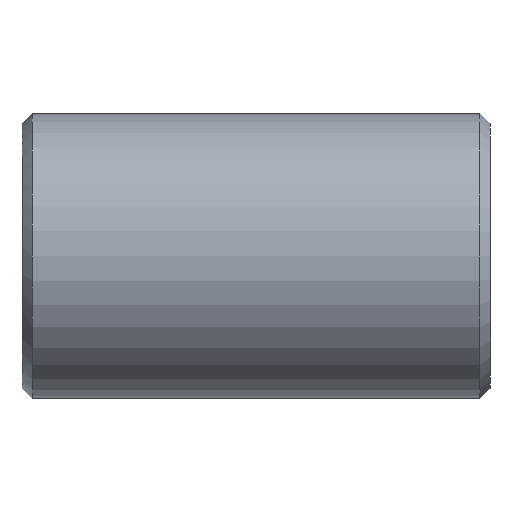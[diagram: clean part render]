
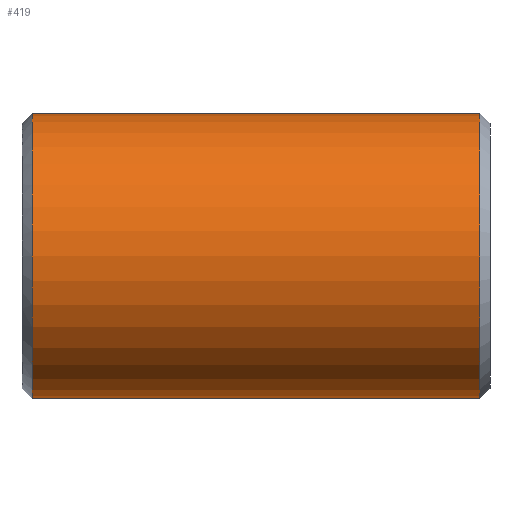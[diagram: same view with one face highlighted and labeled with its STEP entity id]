
A CAD part, front view. The second image highlights one B-rep face of the part: STEP entity #419.
In plain terms, the highlighted cylindrical face has radius 14 mm (diameter 28 mm), a partial arc.
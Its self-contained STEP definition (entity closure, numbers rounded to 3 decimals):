
#231=CARTESIAN_POINT('Vertex',(1.,0.,-14.)) ;
#238=CARTESIAN_POINT('Vertex',(1.,0.,14.)) ;
#267=CARTESIAN_POINT('Axis2P3D Location',(1.,0.,0.)) ;
#271=CARTESIAN_POINT('Vertex',(1.,-14.,0.)) ;
#274=CARTESIAN_POINT('Axis2P3D Location',(1.,0.,0.)) ;
#359=CARTESIAN_POINT('Line Origine',(46.,0.,14.)) ;
#363=CARTESIAN_POINT('Vertex',(45.,0.,14.)) ;
#377=CARTESIAN_POINT('Vertex',(45.,0.,-14.)) ;
#380=CARTESIAN_POINT('Line Origine',(46.,0.,-14.)) ;
#394=CARTESIAN_POINT('Axis2P3D Location',(46.,0.,0.)) ;
#399=CARTESIAN_POINT('Axis2P3D Location',(45.,0.,0.)) ;
#403=CARTESIAN_POINT('Vertex',(45.,-14.,0.)) ;
#406=CARTESIAN_POINT('Axis2P3D Location',(45.,0.,0.)) ;
#268=DIRECTION('Axis2P3D Direction',(1.,0.,-0.)) ;
#275=DIRECTION('Axis2P3D Direction',(1.,0.,-0.)) ;
#360=DIRECTION('Vector Direction',(-1.,0.,0.)) ;
#381=DIRECTION('Vector Direction',(-1.,0.,0.)) ;
#395=DIRECTION('Axis2P3D Direction',(-1.,-0.,-0.)) ;
#396=DIRECTION('Axis2P3D XDirection',(0.,0.,-1.)) ;
#400=DIRECTION('Axis2P3D Direction',(-1.,-0.,-0.)) ;
#407=DIRECTION('Axis2P3D Direction',(-1.,-0.,-0.)) ;
#269=AXIS2_PLACEMENT_3D('Circle Axis2P3D',#267,#268,$) ;
#276=AXIS2_PLACEMENT_3D('Circle Axis2P3D',#274,#275,$) ;
#397=AXIS2_PLACEMENT_3D('Cylinder Axis2P3D',#394,#395,#396) ;
#401=AXIS2_PLACEMENT_3D('Circle Axis2P3D',#399,#400,$) ;
#408=AXIS2_PLACEMENT_3D('Circle Axis2P3D',#406,#407,$) ;
#412=ORIENTED_EDGE('',*,*,#384,.T.) ;
#413=ORIENTED_EDGE('',*,*,#405,.F.) ;
#414=ORIENTED_EDGE('',*,*,#410,.F.) ;
#415=ORIENTED_EDGE('',*,*,#365,.T.) ;
#416=ORIENTED_EDGE('',*,*,#278,.T.) ;
#417=ORIENTED_EDGE('',*,*,#273,.T.) ;
#361=VECTOR('Line Direction',#360,1.) ;
#382=VECTOR('Line Direction',#381,1.) ;
#419=ADVANCED_FACE('352-20X46',(#418),#398,.T.) ;
#270=CIRCLE('generated circle',#269,14.) ;
#277=CIRCLE('generated circle',#276,14.) ;
#402=CIRCLE('generated circle',#401,14.) ;
#409=CIRCLE('generated circle',#408,14.) ;
#398=CYLINDRICAL_SURFACE('generated cylinder',#397,14.) ;
#273=EDGE_CURVE('',#272,#232,#270,.T.) ;
#278=EDGE_CURVE('',#239,#272,#277,.T.) ;
#365=EDGE_CURVE('',#364,#239,#362,.T.) ;
#384=EDGE_CURVE('',#232,#378,#383,.F.) ;
#405=EDGE_CURVE('',#404,#378,#402,.F.) ;
#410=EDGE_CURVE('',#364,#404,#409,.F.) ;
#411=EDGE_LOOP('',(#412,#413,#414,#415,#416,#417)) ;
#418=FACE_OUTER_BOUND('',#411,.T.) ;
#362=LINE('Line',#359,#361) ;
#383=LINE('Line',#380,#382) ;
#232=VERTEX_POINT('',#231) ;
#239=VERTEX_POINT('',#238) ;
#272=VERTEX_POINT('',#271) ;
#364=VERTEX_POINT('',#363) ;
#378=VERTEX_POINT('',#377) ;
#404=VERTEX_POINT('',#403) ;
